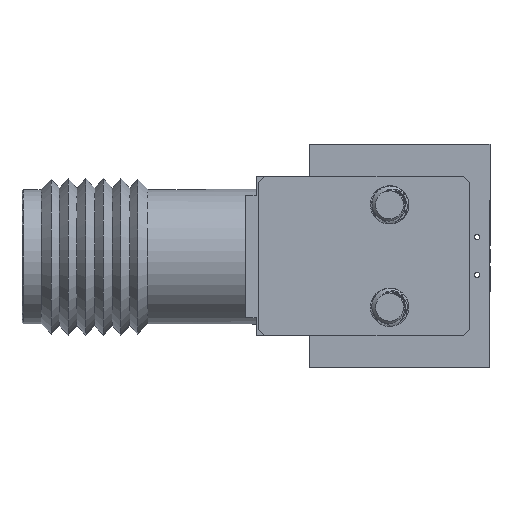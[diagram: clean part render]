
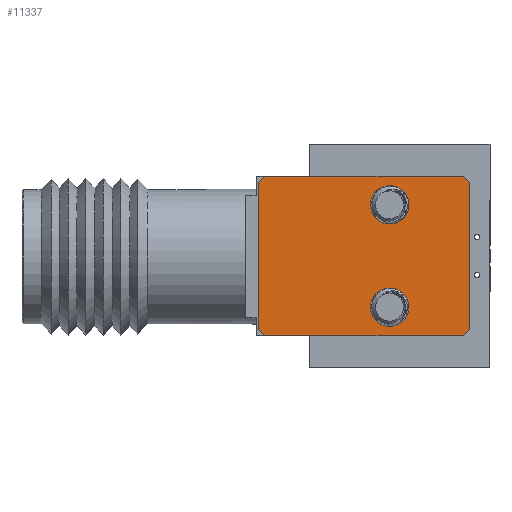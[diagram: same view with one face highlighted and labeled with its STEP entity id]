
A CAD part, front view. The second image highlights one B-rep face of the part: STEP entity #11337.
In plain terms, the highlighted planar face has unit normal (0, -1, 0) as drawn and (0, 0, -1) by its records, which use the part's own axes.
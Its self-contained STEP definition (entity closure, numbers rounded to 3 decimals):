
#308 = AXIS2_PLACEMENT_3D ( 'NONE', #9135, #6291, #11888 ) ;
#400 = ORIENTED_EDGE ( 'NONE', *, *, #7612, .T. ) ;
#643 = VERTEX_POINT ( 'NONE', #1343 ) ;
#1255 = VERTEX_POINT ( 'NONE', #16683 ) ;
#1272 = VECTOR ( 'NONE', #1952, 1000. ) ;
#1343 = CARTESIAN_POINT ( 'NONE',  ( -5.207, -2.921, 0. ) ) ;
#1683 = CARTESIAN_POINT ( 'NONE',  ( -4.064, -4.064, 0. ) ) ;
#1702 = VERTEX_POINT ( 'NONE', #9728 ) ;
#1952 = DIRECTION ( 'NONE',  ( 0., -1., 0. ) ) ;
#2071 = DIRECTION ( 'NONE',  ( 0., 0., -1. ) ) ;
#2089 = VERTEX_POINT ( 'NONE', #9879 ) ;
#2294 = VECTOR ( 'NONE', #9162, 1000. ) ;
#2343 = CARTESIAN_POINT ( 'NONE',  ( 3.048, -3.048, 0. ) ) ;
#2414 = VECTOR ( 'NONE', #3174, 1000. ) ;
#2440 = EDGE_CURVE ( 'NONE', #15153, #15153, #4981, .T. ) ;
#2799 = ORIENTED_EDGE ( 'NONE', *, *, #12948, .T. ) ;
#2985 = PLANE ( 'NONE',  #10462 ) ;
#3022 = VECTOR ( 'NONE', #9540, 1000. ) ;
#3174 = DIRECTION ( 'NONE',  ( -1., 0., 0. ) ) ;
#3368 = ORIENTED_EDGE ( 'NONE', *, *, #15910, .T. ) ;
#3829 = DIRECTION ( 'NONE',  ( 0., -1., 0. ) ) ;
#3965 = CARTESIAN_POINT ( 'NONE',  ( -4.064, 4.064, 0. ) ) ;
#4071 = EDGE_CURVE ( 'NONE', #16272, #643, #15662, .T. ) ;
#4981 = CIRCLE ( 'NONE', #308, 0.596 ) ;
#5120 = EDGE_LOOP ( 'NONE', ( #15955, #7046, #14118, #11325, #6645, #3368, #10216, #2799 ) ) ;
#5437 = CARTESIAN_POINT ( 'NONE',  ( 0.596, 2.032, 0. ) ) ;
#5789 = LINE ( 'NONE', #1683, #13683 ) ;
#6291 = DIRECTION ( 'NONE',  ( 0., 0., 1. ) ) ;
#6422 = EDGE_CURVE ( 'NONE', #12682, #13724, #8587, .T. ) ;
#6632 = CARTESIAN_POINT ( 'NONE',  ( 3.048, 3.048, 0. ) ) ;
#6645 = ORIENTED_EDGE ( 'NONE', *, *, #9696, .T. ) ;
#6650 = VERTEX_POINT ( 'NONE', #7927 ) ;
#6707 = VECTOR ( 'NONE', #12219, 1000. ) ;
#7046 = ORIENTED_EDGE ( 'NONE', *, *, #7629, .T. ) ;
#7277 = VECTOR ( 'NONE', #10766, 1000. ) ;
#7612 = EDGE_CURVE ( 'NONE', #12293, #12293, #10923, .T. ) ;
#7629 = EDGE_CURVE ( 'NONE', #16272, #13724, #12189, .T. ) ;
#7785 = CARTESIAN_POINT ( 'NONE',  ( -2.921, -3.175, 0. ) ) ;
#7927 = CARTESIAN_POINT ( 'NONE',  ( 3.175, 2.921, 0. ) ) ;
#8115 = EDGE_LOOP ( 'NONE', ( #14430 ) ) ;
#8471 = FACE_BOUND ( 'NONE', #8115, .T. ) ;
#8571 = FACE_BOUND ( 'NONE', #17790, .T. ) ;
#8587 = LINE ( 'NONE', #15715, #2414 ) ;
#8934 = CARTESIAN_POINT ( 'NONE',  ( 0., 0., 0. ) ) ;
#9135 = CARTESIAN_POINT ( 'NONE',  ( 0., -2.032, 0. ) ) ;
#9162 = DIRECTION ( 'NONE',  ( 1., 0., 0. ) ) ;
#9263 = CARTESIAN_POINT ( 'NONE',  ( 0., 2.032, 0. ) ) ;
#9408 = CARTESIAN_POINT ( 'NONE',  ( 3.175, 5.554, 0. ) ) ;
#9440 = CARTESIAN_POINT ( 'NONE',  ( -5.207, 2.921, 0. ) ) ;
#9540 = DIRECTION ( 'NONE',  ( 0.707, 0.707, 0. ) ) ;
#9696 = EDGE_CURVE ( 'NONE', #6650, #1255, #13708, .T. ) ;
#9728 = CARTESIAN_POINT ( 'NONE',  ( 2.921, -3.175, 0. ) ) ;
#9879 = CARTESIAN_POINT ( 'NONE',  ( -4.953, -3.175, 0. ) ) ;
#9952 = FACE_OUTER_BOUND ( 'NONE', #5120, .T. ) ;
#10216 = ORIENTED_EDGE ( 'NONE', *, *, #11969, .F. ) ;
#10462 = AXIS2_PLACEMENT_3D ( 'NONE', #8934, #2071, #15887 ) ;
#10766 = DIRECTION ( 'NONE',  ( -0.707, -0.707, 0. ) ) ;
#10923 = CIRCLE ( 'NONE', #12388, 0.596 ) ;
#11325 = ORIENTED_EDGE ( 'NONE', *, *, #12816, .T. ) ;
#11337 = ADVANCED_FACE ( 'NONE', ( #8571, #8471, #9952 ), #2985, .T. ) ;
#11874 = CARTESIAN_POINT ( 'NONE',  ( 2.921, 3.175, 0. ) ) ;
#11888 = DIRECTION ( 'NONE',  ( 1., 0., 0. ) ) ;
#11969 = EDGE_CURVE ( 'NONE', #2089, #1702, #17757, .T. ) ;
#12189 = LINE ( 'NONE', #3965, #3022 ) ;
#12219 = DIRECTION ( 'NONE',  ( 0.707, -0.707, 0. ) ) ;
#12225 = LINE ( 'NONE', #2343, #7277 ) ;
#12293 = VERTEX_POINT ( 'NONE', #5437 ) ;
#12388 = AXIS2_PLACEMENT_3D ( 'NONE', #9263, #16486, #13563 ) ;
#12682 = VERTEX_POINT ( 'NONE', #11874 ) ;
#12734 = CARTESIAN_POINT ( 'NONE',  ( -5.207, 6.592, 0. ) ) ;
#12816 = EDGE_CURVE ( 'NONE', #12682, #6650, #14962, .T. ) ;
#12948 = EDGE_CURVE ( 'NONE', #2089, #643, #5789, .T. ) ;
#13563 = DIRECTION ( 'NONE',  ( 1., 0., 0. ) ) ;
#13683 = VECTOR ( 'NONE', #17148, 1000. ) ;
#13708 = LINE ( 'NONE', #9408, #14994 ) ;
#13724 = VERTEX_POINT ( 'NONE', #17833 ) ;
#14118 = ORIENTED_EDGE ( 'NONE', *, *, #6422, .F. ) ;
#14430 = ORIENTED_EDGE ( 'NONE', *, *, #2440, .T. ) ;
#14962 = LINE ( 'NONE', #6632, #6707 ) ;
#14994 = VECTOR ( 'NONE', #3829, 1000. ) ;
#15153 = VERTEX_POINT ( 'NONE', #15498 ) ;
#15498 = CARTESIAN_POINT ( 'NONE',  ( 0.596, -2.032, 0. ) ) ;
#15662 = LINE ( 'NONE', #12734, #1272 ) ;
#15715 = CARTESIAN_POINT ( 'NONE',  ( -2.921, 3.175, 0. ) ) ;
#15887 = DIRECTION ( 'NONE',  ( -1., 0., 0. ) ) ;
#15910 = EDGE_CURVE ( 'NONE', #1255, #1702, #12225, .T. ) ;
#15955 = ORIENTED_EDGE ( 'NONE', *, *, #4071, .F. ) ;
#16272 = VERTEX_POINT ( 'NONE', #9440 ) ;
#16486 = DIRECTION ( 'NONE',  ( 0., 0., 1. ) ) ;
#16683 = CARTESIAN_POINT ( 'NONE',  ( 3.175, -2.921, 0. ) ) ;
#17148 = DIRECTION ( 'NONE',  ( -0.707, 0.707, 0. ) ) ;
#17757 = LINE ( 'NONE', #7785, #2294 ) ;
#17790 = EDGE_LOOP ( 'NONE', ( #400 ) ) ;
#17833 = CARTESIAN_POINT ( 'NONE',  ( -4.953, 3.175, 0. ) ) ;
